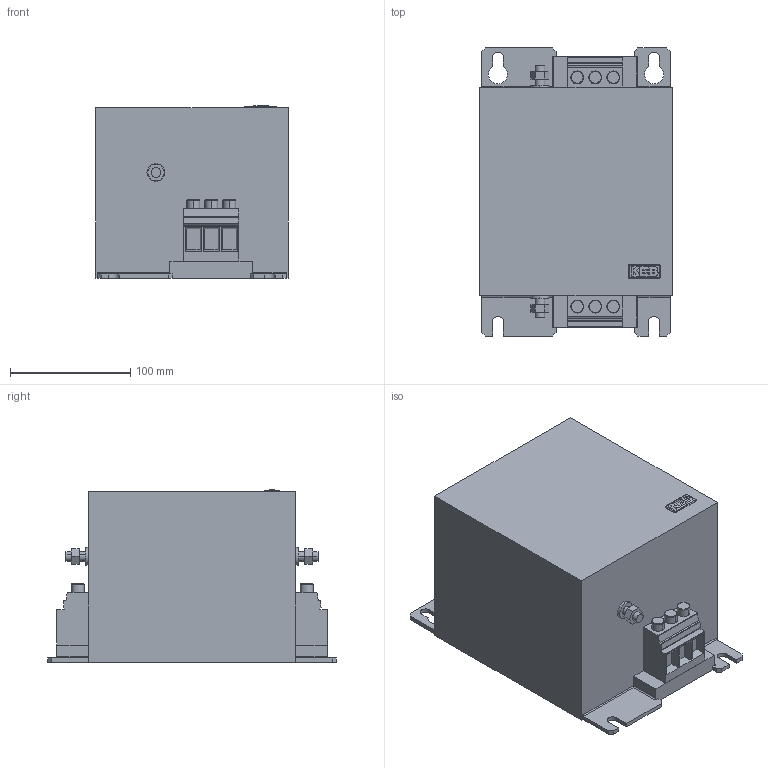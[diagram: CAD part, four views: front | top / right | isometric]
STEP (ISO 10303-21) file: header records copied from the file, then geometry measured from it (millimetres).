
FILE_DESCRIPTION (( 'STEP AP214' ), '1' );
FILE_NAME ('00E6X01-0020.STEP', '2023-07-10T14:37:45', ( '' ), ( '' ), 'SwSTEP 2.0', 'SolidWorks 2022', '' );
FILE_SCHEMA (( 'AUTOMOTIVE_DESIGN' ));
Length unit declared in the file: millimetre
Products named in the file (1): 00E6X01-0020
Bounding box: 160 x 240 x 143.53 mm (x, y, z)
Volume: 4094225.6 mm3; surface area: 178932.2 mm2
Topology: 1 solids, 1 shells, 245 faces, 634 edges, 416 vertices
Faces by surface type: plane 165, cylinder 55, bspline 13, cone 12
Entity records: 8362 total; most frequent: CARTESIAN_POINT 2327, ORIENTED_EDGE 1268, DIRECTION 1068, EDGE_CURVE 634, VERTEX_POINT 416, VECTOR 394, LINE 394, AXIS2_PLACEMENT_3D 337
